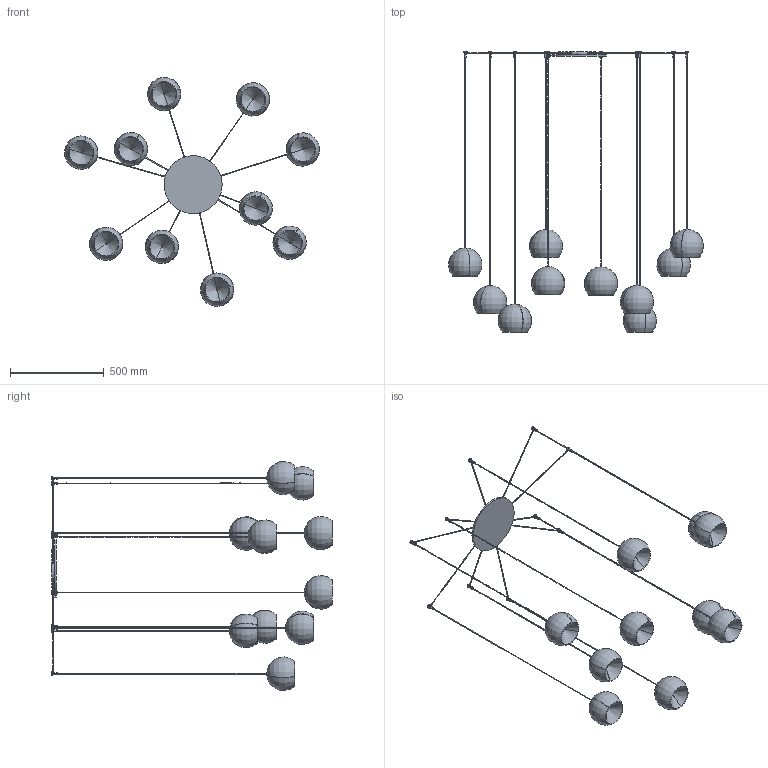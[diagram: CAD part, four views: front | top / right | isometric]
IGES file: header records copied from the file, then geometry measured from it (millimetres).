
Start section: SolidWorks IGES file using analytic representation for surfaces
Global section: file name: Y:\eforma\TECNICO\SOLIDWORKS\E-FORMA\09-LAMPADE\CHERRY\08 modelli 3D web\CHR10-00-CHERRY_10 sospensione.IGS; native system: SolidWorks 2022; preprocessor: SolidWorks 2022; author: eforma.tech; date: 240801.143828; units: millimetre
Bounding box: 1362.13 x 1500 x 1224.01 mm (x, y, z)
Volume: 3301089.9 mm3; surface area: 2480681.2 mm2
Topology: 51 solids, 51 shells, 384 faces, 811 edges, 510 vertices
Faces by surface type: revolution 268, plane 116
